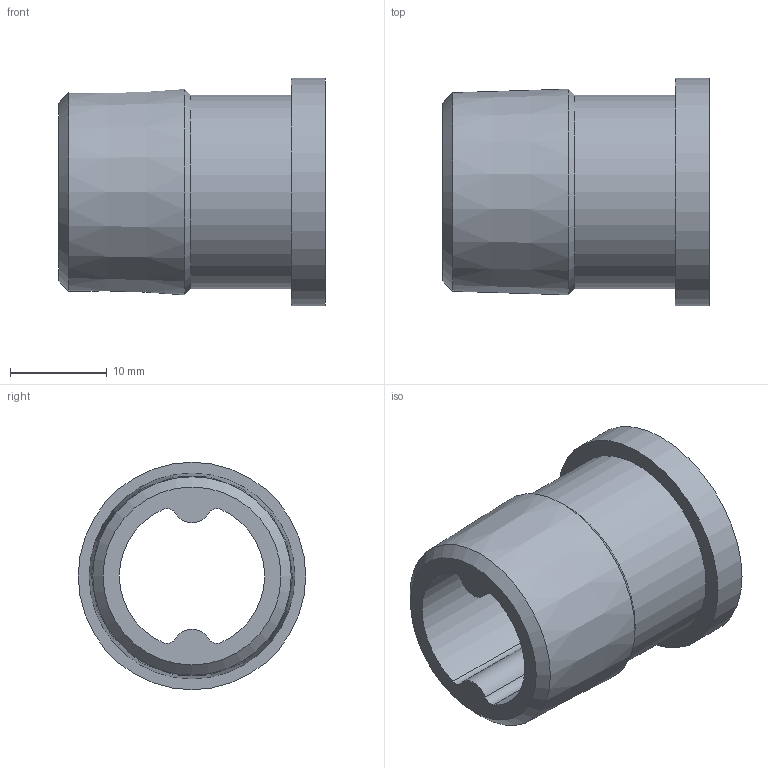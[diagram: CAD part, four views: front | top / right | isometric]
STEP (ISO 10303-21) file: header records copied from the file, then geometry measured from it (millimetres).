
FILE_DESCRIPTION((''),'2;1');
FILE_NAME('\\Lg50001\Groups\SANHA Legnica\Engineering\Public\RYSUNKI\SANHA POLSKA\4371\STEP\14371_12-34(1).stp','2009-11-06T09:18:17',('pajchrowski'),(''),'Autodesk Inventor 2009','Autodesk Inventor 2009','');
FILE_SCHEMA(('AUTOMOTIVE_DESIGN { 1 0 10303 214 1 1 1 1 }'));
Length unit declared in the file: millimetre
Products named in the file (1): 14371_12-34(1)
Bounding box: 27.5 x 23.5 x 23.5 mm (x, y, z)
Volume: 4879.9 mm3; surface area: 3680.2 mm2
Topology: 1 solids, 1 shells, 16 faces, 36 edges, 23 vertices
Faces by surface type: cylinder 10, plane 3, cone 3
Full cylindrical faces by diameter (mm): 20 x1, 23.5 x1
Entity records: 464 total; most frequent: DIRECTION 88, CARTESIAN_POINT 71, ORIENTED_EDGE 62, AXIS2_PLACEMENT_3D 40, EDGE_CURVE 31, EDGE_LOOP 24, VERTEX_POINT 23, CIRCLE 23
